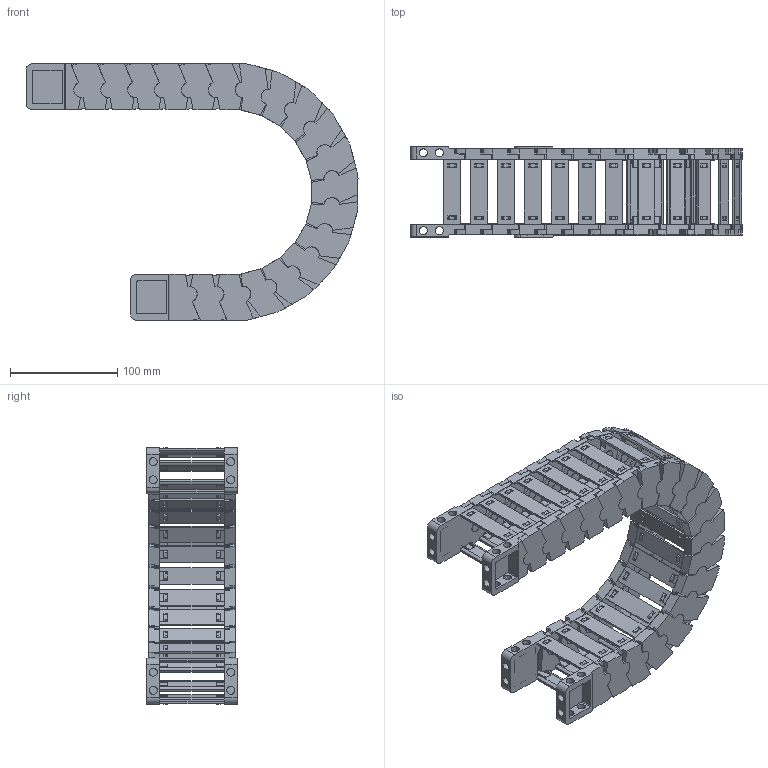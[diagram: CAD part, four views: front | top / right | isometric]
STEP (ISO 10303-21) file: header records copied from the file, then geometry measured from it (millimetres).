
FILE_DESCRIPTION((''),'2;1');
FILE_NAME('JY-35X60-R100_ASM','2022-05-06T17:02:25',('admin'),(''),'CREO PARAMETRIC BY PTC INC, 2021164','CREO PARAMETRIC BY PTC INC, 2021164','');
FILE_SCHEMA(('CONFIG_CONTROL_DESIGN','GEOMETRIC_VALIDATION_PROPERTIES_MIM'));
Length unit declared in the file: millimetre
Products named in the file (11): 35XL-L; 25-35XL-YP; 35XL-R; ASM0001_ASM; 35-LTT-A-L; 35-LTT-A-R; 35XL-LTT-A_ASM; 35-LTT-B-L; 35-LTT-B-R; 35XL-LTT-B_ASM; JY-35X60-R100_ASM
Assembly tree (33 placements, depth 3):
  JY-35X60-R100_ASM
    ASM0001_ASM  x19
      35XL-L
      25-35XL-YP
      35XL-R
    35XL-LTT-A_ASM
      35-LTT-A-L
      25-35XL-YP  x2
      35-LTT-A-R
    35XL-LTT-B_ASM
      35-LTT-B-L
      25-35XL-YP  x2
      35-LTT-B-R
Bounding box: 310.13 x 84.6 x 239.89 mm (x, y, z)
Volume: 564107.9 mm3; surface area: 346575.1 mm2
Topology: 84 solids, 84 shells, 4366 faces, 12770 edges, 8536 vertices
Faces by surface type: plane 3318, cylinder 1044, bspline 4
Entity records: 20862 total; most frequent: CARTESIAN_POINT 3243, ORIENTED_EDGE 2876, DIRECTION 2864, EDGE_CURVE 1438, VECTOR 1056, LINE 1056, VERTEX_POINT 964, AXIS2_PLACEMENT_3D 904
